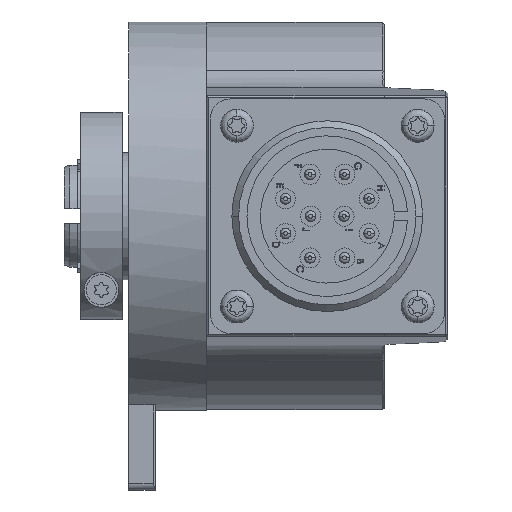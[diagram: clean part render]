
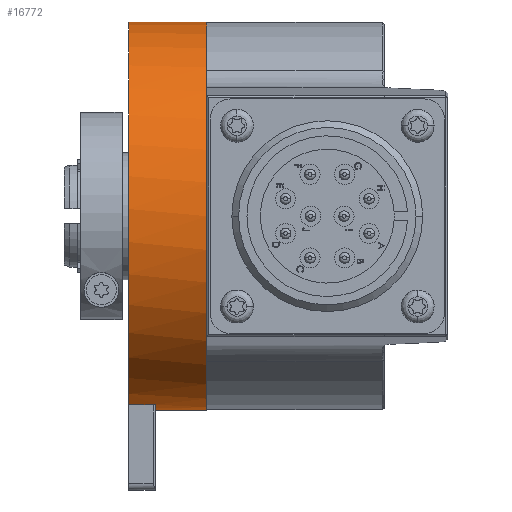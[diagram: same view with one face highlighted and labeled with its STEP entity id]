
A CAD part, front view. The second image highlights one B-rep face of the part: STEP entity #16772.
In plain terms, the highlighted cylindrical face has radius 29 mm (diameter 58 mm), a partial arc.
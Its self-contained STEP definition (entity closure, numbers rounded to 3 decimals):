
#284 = CARTESIAN_POINT ( 'NONE',  ( 0.378, 18.423, -28.142 ) ) ;
#1092 = CARTESIAN_POINT ( 'NONE',  ( -3.622, 18.423, -28.142 ) ) ;
#1127 = ORIENTED_EDGE ( 'NONE', *, *, #10724, .F. ) ;
#1446 = CIRCLE ( 'NONE', #3311, 29. ) ;
#1575 = AXIS2_PLACEMENT_3D ( 'NONE', #4917, #19145, #13750 ) ;
#2015 = CARTESIAN_POINT ( 'NONE',  ( 8.068, 25.423, -29. ) ) ;
#2075 = VERTEX_POINT ( 'NONE', #6558 ) ;
#2570 = CARTESIAN_POINT ( 'NONE',  ( 0.378, 25.423, -29. ) ) ;
#2827 = CIRCLE ( 'NONE', #13373, 29. ) ;
#3008 = ORIENTED_EDGE ( 'NONE', *, *, #8492, .T. ) ;
#3127 = CARTESIAN_POINT ( 'NONE',  ( 8.068, 18.423, -28.142 ) ) ;
#3311 = AXIS2_PLACEMENT_3D ( 'NONE', #19222, #8645, #20751 ) ;
#4133 = DIRECTION ( 'NONE',  ( 0., 0., -1. ) ) ;
#4917 = CARTESIAN_POINT ( 'NONE',  ( 8.068, 25.423, 0. ) ) ;
#5223 = VERTEX_POINT ( 'NONE', #1092 ) ;
#5399 = VECTOR ( 'NONE', #18229, 1000. ) ;
#5502 = EDGE_CURVE ( 'NONE', #6932, #7789, #7547, .T. ) ;
#6461 = CYLINDRICAL_SURFACE ( 'NONE', #1575, 29. ) ;
#6558 = CARTESIAN_POINT ( 'NONE',  ( 8.068, 25.423, 29. ) ) ;
#6706 = CARTESIAN_POINT ( 'NONE',  ( 8.068, 25.423, -29. ) ) ;
#6932 = VERTEX_POINT ( 'NONE', #2570 ) ;
#7547 = LINE ( 'NONE', #2015, #5399 ) ;
#7789 = VERTEX_POINT ( 'NONE', #6706 ) ;
#8324 = CARTESIAN_POINT ( 'NONE',  ( 0.378, 25.423, 0. ) ) ;
#8492 = EDGE_CURVE ( 'NONE', #12337, #6932, #2827, .T. ) ;
#8641 = AXIS2_PLACEMENT_3D ( 'NONE', #11085, #14730, #4133 ) ;
#8645 = DIRECTION ( 'NONE',  ( 1., 0., 0. ) ) ;
#9233 = ORIENTED_EDGE ( 'NONE', *, *, #13787, .F. ) ;
#9432 = LINE ( 'NONE', #14366, #13438 ) ;
#9967 = EDGE_CURVE ( 'NONE', #12337, #5223, #19236, .T. ) ;
#10724 = EDGE_CURVE ( 'NONE', #16297, #2075, #9432, .T. ) ;
#11085 = CARTESIAN_POINT ( 'NONE',  ( 8.068, 25.423, 0. ) ) ;
#12298 = ORIENTED_EDGE ( 'NONE', *, *, #9967, .F. ) ;
#12337 = VERTEX_POINT ( 'NONE', #284 ) ;
#12502 = ORIENTED_EDGE ( 'NONE', *, *, #21800, .T. ) ;
#12795 = CIRCLE ( 'NONE', #8641, 29. ) ;
#13373 = AXIS2_PLACEMENT_3D ( 'NONE', #8324, #15509, #22646 ) ;
#13438 = VECTOR ( 'NONE', #16596, 1000. ) ;
#13750 = DIRECTION ( 'NONE',  ( 0., 0., -1. ) ) ;
#13787 = EDGE_CURVE ( 'NONE', #2075, #7789, #12795, .T. ) ;
#14366 = CARTESIAN_POINT ( 'NONE',  ( 8.068, 25.423, 29. ) ) ;
#14730 = DIRECTION ( 'NONE',  ( 1., 0., 0. ) ) ;
#15509 = DIRECTION ( 'NONE',  ( 1., 0., 0. ) ) ;
#16297 = VERTEX_POINT ( 'NONE', #22343 ) ;
#16596 = DIRECTION ( 'NONE',  ( 1., 0., 0. ) ) ;
#16772 = ADVANCED_FACE ( 'NONE', ( #21016 ), #6461, .T. ) ;
#17114 = EDGE_LOOP ( 'NONE', ( #1127, #12502, #12298, #3008, #19772, #9233 ) ) ;
#17465 = DIRECTION ( 'NONE',  ( -1., 0., 0. ) ) ;
#18229 = DIRECTION ( 'NONE',  ( 1., 0., 0. ) ) ;
#19021 = VECTOR ( 'NONE', #17465, 1000. ) ;
#19145 = DIRECTION ( 'NONE',  ( 1., 0., 0. ) ) ;
#19222 = CARTESIAN_POINT ( 'NONE',  ( -3.622, 25.423, 0. ) ) ;
#19236 = LINE ( 'NONE', #3127, #19021 ) ;
#19772 = ORIENTED_EDGE ( 'NONE', *, *, #5502, .T. ) ;
#20751 = DIRECTION ( 'NONE',  ( 0., 0., -1. ) ) ;
#21016 = FACE_OUTER_BOUND ( 'NONE', #17114, .T. ) ;
#21800 = EDGE_CURVE ( 'NONE', #16297, #5223, #1446, .T. ) ;
#22343 = CARTESIAN_POINT ( 'NONE',  ( -3.622, 25.423, 29. ) ) ;
#22646 = DIRECTION ( 'NONE',  ( 0., 0., 1. ) ) ;
